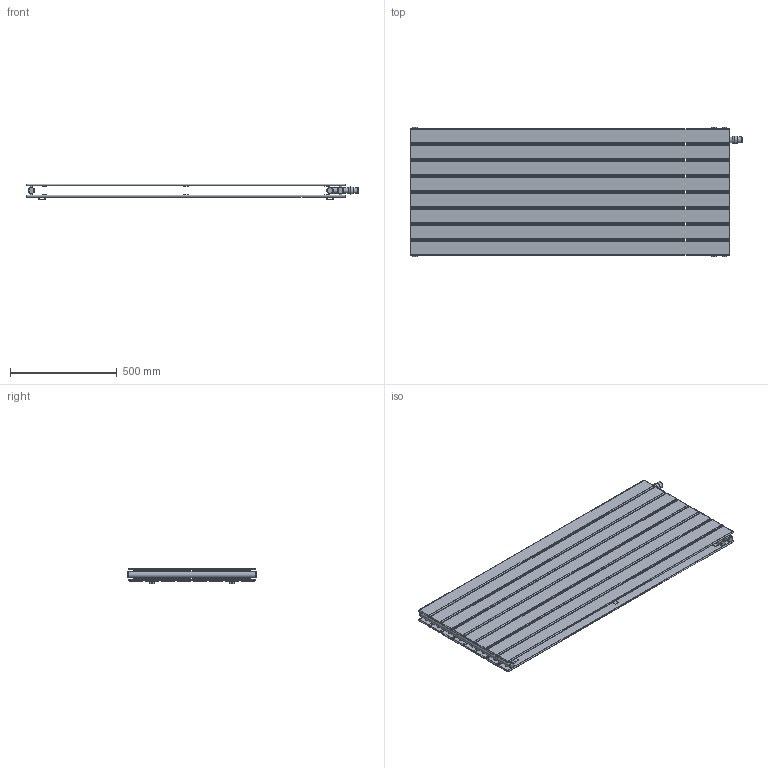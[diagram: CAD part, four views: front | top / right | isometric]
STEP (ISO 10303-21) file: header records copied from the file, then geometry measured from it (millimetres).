
FILE_DESCRIPTION(/* description */ (''),/* implementation_level */ '2;1');
FILE_NAME(/* name */ 'C:\Grzejniki\13DLUXRAD\pokojowe\NIAGARA\to\NIAGARA PODWÓJNA POZIOMA Z WKŁADKĄ TERMOSTATYCZNĄ 595x1500.iam.stp',/* time_stamp */ '2016-06-28T17:33:47+02:00',/* author */ ('m.szydziak'),/* organization */ (''),/* preprocessor_version */ 'ST-DEVELOPER v16.5',/* originating_system */ 'Autodesk Inventor 2017',/* authorisation */ '');
FILE_SCHEMA (('AUTOMOTIVE_DESIGN { 1 0 10303 214 3 1 1 }'));
Length unit declared in the file: millimetre
Products named in the file (9): NIAGARA PODWÓJNA POZIOMA Z WKŁADKĄ TERMOSTA
TYCZNĄ 595x1500; NIAGARA PODWÓJNA 1500x595; 70x8x1,2x1504; michałek; poprzeczka 545; ucho małe; fi30x1,5x595; Głowica Termostatyczna; korek
Assembly tree (69 placements, depth 3):
  NIAGARA PODWÓJNA POZIOMA Z WKŁADKĄ TERMOSTA
TYCZNĄ 595x1500
    NIAGARA PODWÓJNA 1500x595
      fi30x1,5x595  x2
      70x8x1,2x1504  x16
      michałek  x32
      poprzeczka 545  x6
      ucho małe  x4
      korek  x4
    fi30x1,5x595
    Głowica Termostatyczna
    korek  x2
Bounding box: 1556.85 x 607 x 75 mm (x, y, z)
Volume: 4710774.7 mm3; surface area: 7510878 mm2
Topology: 68 solids, 68 shells, 874 faces, 1927 edges, 1173 vertices
Faces by surface type: plane 400, cylinder 324, sphere 128, bspline 16, torus 4, cone 2
Full cylindrical faces by diameter (mm): 8 x32, 9 x32, 10 x32, 11.5 x32, 18.631 x6, 24 x6, 25 x1, 27 x3, 28 x1, 30 x3
Entity records: 4016 total; most frequent: CARTESIAN_POINT 937, DIRECTION 670, ORIENTED_EDGE 452, AXIS2_PLACEMENT_3D 273, EDGE_CURVE 226, VERTEX_POINT 150, EDGE_LOOP 142, LINE 124
